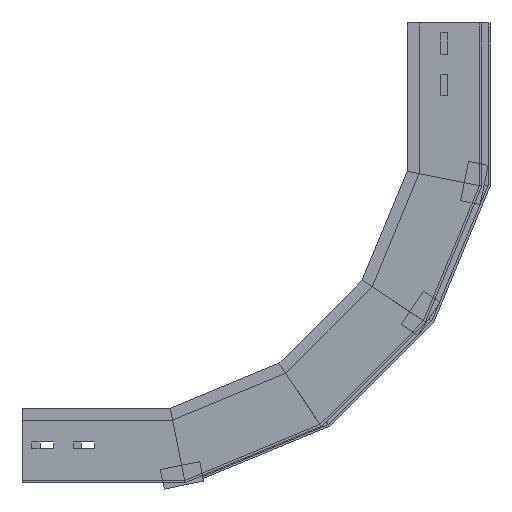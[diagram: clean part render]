
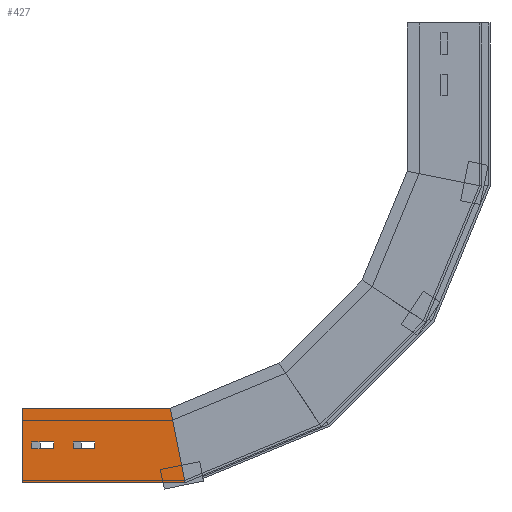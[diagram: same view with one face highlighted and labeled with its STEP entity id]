
A CAD part, left-side view. The second image highlights one B-rep face of the part: STEP entity #427.
In plain terms, the highlighted planar face has unit normal (-1, 0, 0) as drawn and (1, 0, 0) by its records, which use the part's own axes.
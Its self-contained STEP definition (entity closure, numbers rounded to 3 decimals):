
#13 = DIRECTION ( 'NONE',  ( 0., 0., 1. ) ) ;
#16 = LINE ( 'NONE', #593, #1459 ) ;
#28 = CARTESIAN_POINT ( 'NONE',  ( 0., 41., -9.835 ) ) ;
#50 = EDGE_CURVE ( 'NONE', #1368, #395, #979, .T. ) ;
#53 = DIRECTION ( 'NONE',  ( 0., 0., -1. ) ) ;
#62 = VECTOR ( 'NONE', #53, 1000. ) ;
#71 = CARTESIAN_POINT ( 'NONE',  ( 0., 34., -51.505 ) ) ;
#90 = VECTOR ( 'NONE', #316, 1000. ) ;
#100 = LINE ( 'NONE', #158, #235 ) ;
#117 = CARTESIAN_POINT ( 'NONE',  ( 0., 41., -73.505 ) ) ;
#130 = EDGE_LOOP ( 'NONE', ( #1281, #1203, #221, #1659 ) ) ;
#134 = DIRECTION ( 'NONE',  ( 0., 0., -1. ) ) ;
#153 = VERTEX_POINT ( 'NONE', #28 ) ;
#158 = CARTESIAN_POINT ( 'NONE',  ( 0., 0., 0. ) ) ;
#167 = VERTEX_POINT ( 'NONE', #450 ) ;
#178 = VECTOR ( 'NONE', #134, 1000. ) ;
#181 = CARTESIAN_POINT ( 'NONE',  ( 0., 41., -51.505 ) ) ;
#219 = VERTEX_POINT ( 'NONE', #181 ) ;
#221 = ORIENTED_EDGE ( 'NONE', *, *, #745, .T. ) ;
#235 = VECTOR ( 'NONE', #848, 1000. ) ;
#256 = DIRECTION ( 'NONE',  ( -1., 0., 0. ) ) ;
#262 = FACE_BOUND ( 'NONE', #130, .T. ) ;
#316 = DIRECTION ( 'NONE',  ( 0., 1., 0. ) ) ;
#319 = DIRECTION ( 'NONE',  ( 0., 0., -1. ) ) ;
#324 = EDGE_CURVE ( 'NONE', #167, #600, #635, .T. ) ;
#329 = CARTESIAN_POINT ( 'NONE',  ( 0., 41., -9.835 ) ) ;
#347 = CARTESIAN_POINT ( 'NONE',  ( 0., 75., -149.682 ) ) ;
#376 = DIRECTION ( 'NONE',  ( 0., -1., 0. ) ) ;
#383 = DIRECTION ( 'NONE',  ( 0., -1., 0. ) ) ;
#395 = VERTEX_POINT ( 'NONE', #515 ) ;
#414 = VECTOR ( 'NONE', #794, 1000. ) ;
#427 = ADVANCED_FACE ( 'NONE', ( #1269, #1407, #262 ), #1561, .F. ) ;
#450 = CARTESIAN_POINT ( 'NONE',  ( 0., 34., -31.835 ) ) ;
#455 = EDGE_CURVE ( 'NONE', #666, #1504, #100, .T. ) ;
#484 = CARTESIAN_POINT ( 'NONE',  ( 0., 34., -9.835 ) ) ;
#515 = CARTESIAN_POINT ( 'NONE',  ( 0., 34., -73.505 ) ) ;
#551 = CARTESIAN_POINT ( 'NONE',  ( 0., 0., 0. ) ) ;
#572 = EDGE_CURVE ( 'NONE', #1504, #724, #892, .T. ) ;
#579 = LINE ( 'NONE', #1857, #1883 ) ;
#593 = CARTESIAN_POINT ( 'NONE',  ( 0., 41., -51.505 ) ) ;
#600 = VERTEX_POINT ( 'NONE', #757 ) ;
#635 = LINE ( 'NONE', #484, #1787 ) ;
#637 = LINE ( 'NONE', #924, #1546 ) ;
#641 = LINE ( 'NONE', #1521, #1391 ) ;
#666 = VERTEX_POINT ( 'NONE', #1224 ) ;
#710 = CARTESIAN_POINT ( 'NONE',  ( 0., 41., -73.505 ) ) ;
#718 = LINE ( 'NONE', #551, #178 ) ;
#724 = VERTEX_POINT ( 'NONE', #347 ) ;
#745 = EDGE_CURVE ( 'NONE', #931, #167, #641, .T. ) ;
#747 = VECTOR ( 'NONE', #383, 1000. ) ;
#751 = EDGE_LOOP ( 'NONE', ( #1035, #1000, #1800, #1676 ) ) ;
#757 = CARTESIAN_POINT ( 'NONE',  ( 0., 34., -9.835 ) ) ;
#794 = DIRECTION ( 'NONE',  ( 0., 0., 1. ) ) ;
#804 = VERTEX_POINT ( 'NONE', #71 ) ;
#822 = CARTESIAN_POINT ( 'NONE',  ( 0., 34., -51.505 ) ) ;
#848 = DIRECTION ( 'NONE',  ( 0., 1., 0. ) ) ;
#854 = ORIENTED_EDGE ( 'NONE', *, *, #1219, .T. ) ;
#886 = ORIENTED_EDGE ( 'NONE', *, *, #1487, .T. ) ;
#892 = LINE ( 'NONE', #1479, #1664 ) ;
#924 = CARTESIAN_POINT ( 'NONE',  ( 0., 31.495, -158.335 ) ) ;
#931 = VERTEX_POINT ( 'NONE', #1311 ) ;
#947 = EDGE_CURVE ( 'NONE', #600, #153, #1469, .T. ) ;
#979 = LINE ( 'NONE', #710, #747 ) ;
#1000 = ORIENTED_EDGE ( 'NONE', *, *, #455, .F. ) ;
#1027 = CARTESIAN_POINT ( 'NONE',  ( 0., 41., -9.835 ) ) ;
#1035 = ORIENTED_EDGE ( 'NONE', *, *, #572, .F. ) ;
#1046 = EDGE_CURVE ( 'NONE', #153, #931, #1348, .T. ) ;
#1058 = EDGE_CURVE ( 'NONE', #724, #1067, #637, .T. ) ;
#1066 = DIRECTION ( 'NONE',  ( 0., 0., 1. ) ) ;
#1067 = VERTEX_POINT ( 'NONE', #1713 ) ;
#1093 = CARTESIAN_POINT ( 'NONE',  ( 0., 0., 0. ) ) ;
#1157 = DIRECTION ( 'NONE',  ( 0., 1., 0. ) ) ;
#1159 = EDGE_CURVE ( 'NONE', #666, #1067, #718, .T. ) ;
#1174 = DIRECTION ( 'NONE',  ( 0., 0., -1. ) ) ;
#1203 = ORIENTED_EDGE ( 'NONE', *, *, #1046, .T. ) ;
#1215 = DIRECTION ( 'NONE',  ( 0., -0.981, -0.195 ) ) ;
#1219 = EDGE_CURVE ( 'NONE', #804, #219, #579, .T. ) ;
#1224 = CARTESIAN_POINT ( 'NONE',  ( 0., 0., 0. ) ) ;
#1226 = EDGE_LOOP ( 'NONE', ( #854, #886, #1616, #1710 ) ) ;
#1269 = FACE_BOUND ( 'NONE', #1226, .T. ) ;
#1281 = ORIENTED_EDGE ( 'NONE', *, *, #947, .T. ) ;
#1311 = CARTESIAN_POINT ( 'NONE',  ( 0., 41., -31.835 ) ) ;
#1348 = LINE ( 'NONE', #1027, #62 ) ;
#1349 = CARTESIAN_POINT ( 'NONE',  ( 0., 75., 0. ) ) ;
#1368 = VERTEX_POINT ( 'NONE', #117 ) ;
#1391 = VECTOR ( 'NONE', #376, 1000. ) ;
#1399 = LINE ( 'NONE', #822, #414 ) ;
#1407 = FACE_OUTER_BOUND ( 'NONE', #751, .T. ) ;
#1459 = VECTOR ( 'NONE', #1174, 1000. ) ;
#1469 = LINE ( 'NONE', #329, #90 ) ;
#1479 = CARTESIAN_POINT ( 'NONE',  ( 0., 75., 0. ) ) ;
#1487 = EDGE_CURVE ( 'NONE', #219, #1368, #16, .T. ) ;
#1504 = VERTEX_POINT ( 'NONE', #1349 ) ;
#1521 = CARTESIAN_POINT ( 'NONE',  ( 0., 41., -31.835 ) ) ;
#1546 = VECTOR ( 'NONE', #1215, 1000. ) ;
#1561 = PLANE ( 'NONE',  #1759 ) ;
#1616 = ORIENTED_EDGE ( 'NONE', *, *, #50, .T. ) ;
#1659 = ORIENTED_EDGE ( 'NONE', *, *, #324, .T. ) ;
#1664 = VECTOR ( 'NONE', #319, 1000. ) ;
#1673 = EDGE_CURVE ( 'NONE', #395, #804, #1399, .T. ) ;
#1676 = ORIENTED_EDGE ( 'NONE', *, *, #1058, .F. ) ;
#1710 = ORIENTED_EDGE ( 'NONE', *, *, #1673, .T. ) ;
#1713 = CARTESIAN_POINT ( 'NONE',  ( 0., 0., -164.6 ) ) ;
#1759 = AXIS2_PLACEMENT_3D ( 'NONE', #1093, #256, #13 ) ;
#1787 = VECTOR ( 'NONE', #1066, 1000. ) ;
#1800 = ORIENTED_EDGE ( 'NONE', *, *, #1159, .T. ) ;
#1857 = CARTESIAN_POINT ( 'NONE',  ( 0., 41., -51.505 ) ) ;
#1883 = VECTOR ( 'NONE', #1157, 1000. ) ;
